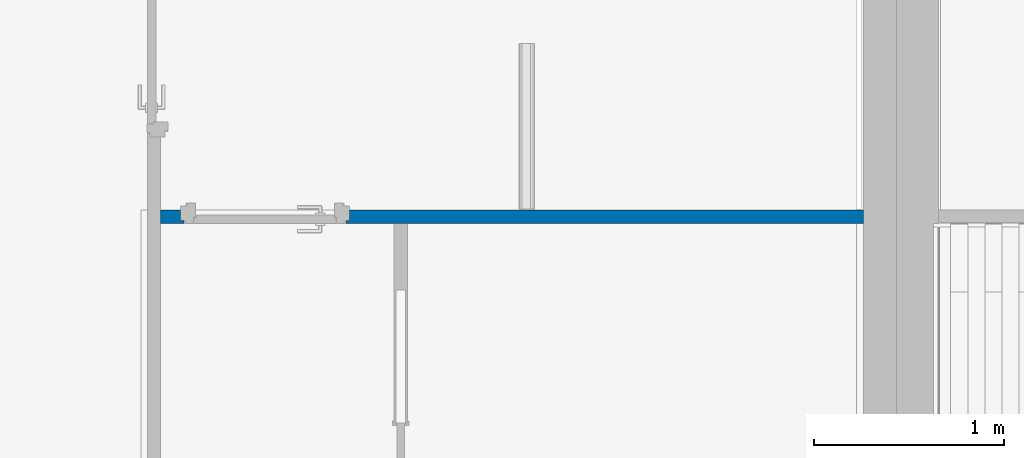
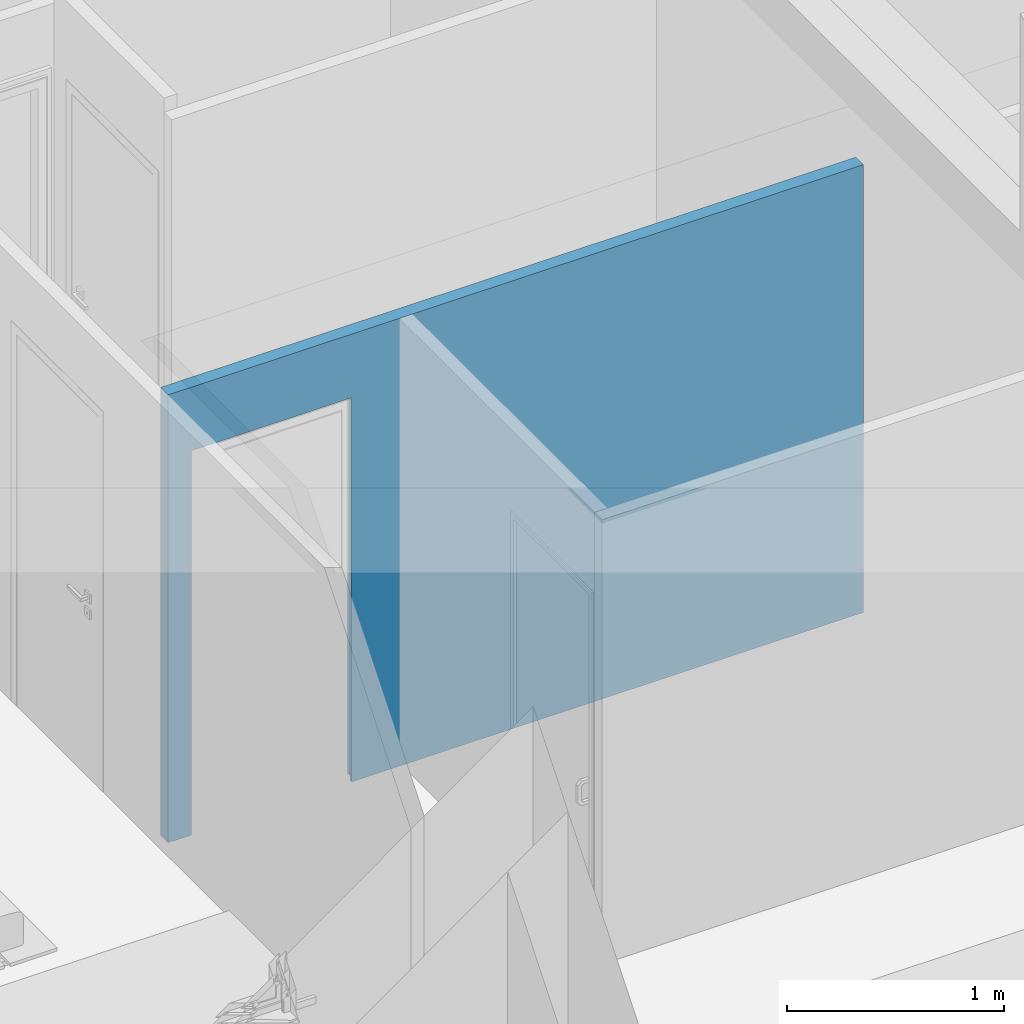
# One storey, part 33 of 61: 1 wall, 1 opening.
"""IFC2X3 building model written with IfcOpenShell, lengths in metres."""

import ifcopenshell
import ifcopenshell.guid

model = None  # the IFC model being written
_history = None  # IfcOwnerHistory: only IFC2X3 demands one
_inside = {}  # id of a spatial element -> (the spatial element, [elements in it])
_under = {}  # id of a project, library or spatial element -> (it, [spatial elements below it])
_declared = {}  # id of a project -> (the project, [libraries it declares])
_typed = {}  # id of a type object -> (the type object, [elements of that type])
_made_of = {}  # id of a material, layer set ... -> (it, [elements and type objects made of it])


def new_model(schema):
    """Start an empty IFC model of exactly this schema.

    Asked for "IFC4X3", IfcOpenShell would pick the latest addendum, in which some entities
    have other attributes; the version numbers below select the first issue.
    IFC2X3 requires an IfcOwnerHistory on every rooted entity: one is made here for all.
    """
    global model, _history
    if schema == "IFC4X3":
        model = ifcopenshell.file(schema_version=(4, 3, 0, 0))
    else:
        model = ifcopenshell.file(schema=schema)
    _inside.clear()
    _under.clear()
    _declared.clear()
    _typed.clear()
    _made_of.clear()
    _history = None
    if model.schema == "IFC2X3":
        org = make("IfcOrganization", Name="unknown")
        user = make(
            "IfcPersonAndOrganization",
            ThePerson=make("IfcPerson", FamilyName="unknown"),
            TheOrganization=org,
        )
        app = make(
            "IfcApplication",
            ApplicationDeveloper=org,
            Version="unknown",
            ApplicationFullName="unknown",
            ApplicationIdentifier="unknown",
        )
        _history = make(
            "IfcOwnerHistory",
            OwningUser=user,
            OwningApplication=app,
            ChangeAction="ADDED",
            CreationDate=0,
        )
    return model


def make(cls, **values):
    """One entity of the class cls with the attributes given. An attribute that is None is left unset."""
    return model.create_entity(
        cls, **{name: value for name, value in values.items() if value is not None}
    )


def entity(cls, *values):
    """Any entity or typed value of the class cls, its attributes in the order of the schema. None: left unset."""
    e = model.create_entity(cls)
    for i, value in enumerate(values):
        if value is not None:
            e[i] = value
    return e


def rooted(cls, **values):
    """An entity with a GlobalId (a new one), such as an element, a storey or a relation."""
    return make(cls, GlobalId=ifcopenshell.guid.new(), OwnerHistory=_history, **values)


def si_unit(unit_type, name, prefix=None):
    """IfcSIUnit, for example si_unit("LENGTHUNIT", "METRE", prefix="MILLI")."""
    return make("IfcSIUnit", UnitType=unit_type, Prefix=prefix, Name=name)


def converted_unit(unit_type, name, factor, base, dimensions=None, offset=None):
    """IfcConversionBasedUnit, such as the inch: factor (a typed value) times the base unit."""
    return make(
        "IfcConversionBasedUnit"
        if offset is None
        else "IfcConversionBasedUnitWithOffset",
        ConversionOffset=offset,
        Dimensions=None
        if dimensions is None
        else entity("IfcDimensionalExponents", *dimensions),
        UnitType=unit_type,
        Name=name,
        ConversionFactor=make(
            "IfcMeasureWithUnit", ValueComponent=factor, UnitComponent=base
        ),
    )


def derived_unit(unit_type, elements):
    """IfcDerivedUnit: a product of units, each with its exponent."""
    return make(
        "IfcDerivedUnit",
        Elements=[
            make("IfcDerivedUnitElement", Unit=unit, Exponent=power)
            for unit, power in elements
        ],
        UnitType=unit_type,
    )


def assignment(units):
    """IfcUnitAssignment: the units of a project."""
    return None if units is None else make("IfcUnitAssignment", Units=units)


def point(xyz):
    """IfcCartesianPoint."""
    return None if xyz is None else make("IfcCartesianPoint", Coordinates=xyz)


def direction(xyz):
    """IfcDirection."""
    return None if xyz is None else make("IfcDirection", DirectionRatios=xyz)


def frame(location, z_axis=None, x_axis=None):
    """IfcAxis2Placement3D, a coordinate frame: its origin and axes. An axis left out is left unset."""
    return make(
        "IfcAxis2Placement3D",
        Location=point(location),
        Axis=direction(z_axis),
        RefDirection=direction(x_axis),
    )


def frame_2d(location, x_axis=None):
    """IfcAxis2Placement2D, a coordinate frame in the plane: its origin and x axis."""
    return make(
        "IfcAxis2Placement2D", Location=point(location), RefDirection=direction(x_axis)
    )


def origin():
    """The frame at (0, 0, 0) with its axes left unset."""
    return frame((0.0, 0.0, 0.0))


def place(relative_to, where):
    """IfcLocalPlacement: puts the frame where relative to a parent placement (None: the world)."""
    return make(
        "IfcLocalPlacement", PlacementRelTo=relative_to, RelativePlacement=where
    )


def context(
    kind, dimensions, precision=None, world=None, true_north=None, identifier=None
):
    """IfcGeometricRepresentationContext, for example the 3D "Model" context."""
    return make(
        "IfcGeometricRepresentationContext",
        ContextIdentifier=identifier,
        ContextType=kind,
        CoordinateSpaceDimension=dimensions,
        Precision=precision,
        WorldCoordinateSystem=world,
        TrueNorth=true_north,
    )


def subcontext(parent, identifier, kind, view, scale=None):
    """IfcGeometricRepresentationSubContext, for example "Body" below "Model"."""
    return make(
        "IfcGeometricRepresentationSubContext",
        ContextIdentifier=identifier,
        ContextType=kind,
        ParentContext=parent,
        TargetScale=scale,
        TargetView=view,
    )


def project(units=None, contexts=None):
    """IfcProject with its units and contexts."""
    return rooted(
        "IfcProject",
        Name="project",
        RepresentationContexts=contexts,
        UnitsInContext=assignment(units),
    )


def spatial(cls, under=None, at=None, **own):
    """A site, building, storey or space (cls), placed at a placement, below another one or the project."""
    s = rooted(cls, ObjectPlacement=at, **own)
    if under is not None:
        _under.setdefault(under.id(), (under, []))[1].append(s)
    return s


def profile(cls, at=None, kind="AREA", **sizes):
    """A parametric profile (cls). Its sizes go by their IFC names, for example OverallWidth=200.0."""
    return make(cls, ProfileType=kind, Position=at, **sizes)


def rectangle(**sizes):
    """IfcRectangleProfileDef."""
    return profile("IfcRectangleProfileDef", **sizes)


def extrude(swept, where, along, depth):
    """IfcExtrudedAreaSolid: the profile swept, set in the frame where, extruded along a direction by depth."""
    return make(
        "IfcExtrudedAreaSolid",
        SweptArea=swept,
        Position=where,
        ExtrudedDirection=direction(along),
        Depth=depth,
    )


def faces_of(points, faces, orient=None, outer=None):
    """IfcFace entities. A face is a list of loops; a loop is a list of indices into points, from 0.

    orient and outer hold one flag for each loop. By default every Orientation is true, the
    first loop of a face is its IfcFaceOuterBound and the others are IfcFaceBound.
    """
    made = []
    for i, loops in enumerate(faces):
        bounds = []
        for j, loop in enumerate(loops):
            is_outer = j == 0 if outer is None else outer[i][j]
            bounds.append(
                make(
                    "IfcFaceOuterBound" if is_outer else "IfcFaceBound",
                    Bound=make("IfcPolyLoop", Polygon=[points[k] for k in loop]),
                    Orientation=True if orient is None else orient[i][j],
                )
            )
        made.append(make("IfcFace", Bounds=bounds))
    return made


def faceted_brep(points, faces, orient=None, outer=None, voids=None):
    """IfcFacetedBrep: a solid bounded by flat faces; with voids (closed shells), ...WithVoids."""
    shared = [point(p) for p in points]
    hull = make("IfcClosedShell", CfsFaces=faces_of(shared, faces, orient, outer))
    if voids is None:
        return make("IfcFacetedBrep", Outer=hull)
    return make(
        "IfcFacetedBrepWithVoids",
        Outer=hull,
        Voids=[
            make(cls, CfsFaces=faces_of(shared, fs, o, b)) for cls, fs, o, b in voids
        ],
    )


def shape(context_of_items, identifier, shape_type, items):
    """IfcShapeRepresentation: the items that make up one representation, for example the "Body"."""
    return make(
        "IfcShapeRepresentation",
        ContextOfItems=context_of_items,
        RepresentationIdentifier=identifier,
        RepresentationType=shape_type,
        Items=items,
    )


def material(Name=None, Category=None):
    """IfcMaterial."""
    return make("IfcMaterial", Name=Name, Category=Category)


def layer(
    of_material, thickness, ventilated=None, Name=None, Category=None, Priority=None
):
    """IfcMaterialLayer: one layer of a wall or slab, of a material (None: an air gap)."""
    return make(
        "IfcMaterialLayer",
        Material=of_material,
        LayerThickness=thickness,
        IsVentilated=ventilated,
        Name=Name,
        Category=Category,
        Priority=Priority,
    )


def layer_set(layers, Name=None):
    """IfcMaterialLayerSet."""
    return make("IfcMaterialLayerSet", MaterialLayers=layers, LayerSetName=Name)


def layer_usage(for_layer_set, set_direction, sense, offset, extent=None):
    """IfcMaterialLayerSetUsage: how a layer set lies in its element."""
    return make(
        "IfcMaterialLayerSetUsage",
        ForLayerSet=for_layer_set,
        LayerSetDirection=set_direction,
        DirectionSense=sense,
        OffsetFromReferenceLine=offset,
        ReferenceExtent=extent,
    )


def made_of(thing, what):
    """Note that an element or type object is made of a material, layer set ...; save() writes the relation."""
    if what is not None:
        _made_of.setdefault(what.id(), (what, []))[1].append(thing)
    return thing


def type_object(cls, material=None, **own):
    """A type object (cls), such as IfcWallType, which elements share."""
    return made_of(rooted(cls, **own), material)


def element(
    cls,
    number,
    at=None,
    inside=None,
    cuts=None,
    type_object=None,
    material=None,
    context=None,
    identifier="Body",
    shape_type=None,
    held_by="IfcProductDefinitionShape",
    body=None,
    shapes=None,
    **own,
):
    """One element of the class cls, such as IfcWall. Its Tag is "e" and its number.

    at: its placement. inside: the storey or other place that contains it. cuts: it is an
    opening in that element (IfcRelVoidsElement). A single representation is given by context,
    identifier, shape_type and body (its items); several are given by shapes. held_by: the class
    of the entity that holds the representations. save() writes the other relations.
    """
    e = rooted(cls, Tag="e%d" % number, ObjectPlacement=at, **own)
    if body is not None:
        shapes = [shape(context, identifier, shape_type, body)]
    if shapes is not None:
        e.Representation = make(held_by, Representations=shapes)
    if inside is not None:
        _inside.setdefault(inside.id(), (inside, []))[1].append(e)
    if cuts is not None:
        rooted(
            "IfcRelVoidsElement", RelatingBuildingElement=cuts, RelatedOpeningElement=e
        )
    if type_object is not None:
        _typed.setdefault(type_object.id(), (type_object, []))[1].append(e)
    return made_of(e, material)


def aggregate(whole, parts):
    """IfcRelAggregates: a whole, such as a stair, and the parts it consists of."""
    return rooted("IfcRelAggregates", RelatingObject=whole, RelatedObjects=parts)


def save(model, path):
    """Write the relations noted so far, then the file.

    IfcRelAggregates (storeys below a building ...), IfcRelContainedInSpatialStructure (elements
    in a storey), IfcRelDefinesByType, IfcRelAssociatesMaterial and IfcRelDeclares: one each for
    every whole, place, type object, material and project.
    """
    for whole, parts in _under.values():
        aggregate(whole, parts)
    for where, things in _inside.values():
        rooted(
            "IfcRelContainedInSpatialStructure",
            RelatedElements=things,
            RelatingStructure=where,
        )
    for kind, things in _typed.values():
        rooted("IfcRelDefinesByType", RelatedObjects=things, RelatingType=kind)
    for what, things in _made_of.values():
        rooted("IfcRelAssociatesMaterial", RelatedObjects=things, RelatingMaterial=what)
    for by, libraries in _declared.values():
        rooted("IfcRelDeclares", RelatingContext=by, RelatedDefinitions=libraries)
    model.write(path)


model = new_model("IFC2X3")

# Units and contexts
model_context = context("Model", 3, precision=1e-05, world=origin(), true_north=direction((6.12303176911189e-17, 1.0)))
body_context = subcontext(model_context, "Body", "Model", "MODEL_VIEW")
ifc_project = project(units=[si_unit("LENGTHUNIT", "METRE"), si_unit("AREAUNIT", "SQUARE_METRE"), si_unit("VOLUMEUNIT", "CUBIC_METRE"), converted_unit("PLANEANGLEUNIT", "DEGREE", entity("IfcRatioMeasure", 0.0174532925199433), si_unit("PLANEANGLEUNIT", "RADIAN"), dimensions=[0, 0, 0, 0, 0, 0, 0]), si_unit("MASSUNIT", "GRAM", prefix="KILO"), derived_unit("MASSDENSITYUNIT", [(si_unit("MASSUNIT", "GRAM", prefix="KILO"), 1), (si_unit("LENGTHUNIT", "METRE"), -3)]), si_unit("TIMEUNIT", "SECOND"), si_unit("FREQUENCYUNIT", "HERTZ"), si_unit("THERMODYNAMICTEMPERATUREUNIT", "DEGREE_CELSIUS"), derived_unit("THERMALTRANSMITTANCEUNIT", [(si_unit("MASSUNIT", "GRAM", prefix="KILO"), 1), (si_unit("THERMODYNAMICTEMPERATUREUNIT", "KELVIN"), -1), (si_unit("TIMEUNIT", "SECOND"), -3)]), derived_unit("VOLUMETRICFLOWRATEUNIT", [(si_unit("LENGTHUNIT", "METRE"), 3), (si_unit("TIMEUNIT", "SECOND"), -1)]), si_unit("ELECTRICCURRENTUNIT", "AMPERE"), si_unit("ELECTRICVOLTAGEUNIT", "VOLT"), si_unit("POWERUNIT", "WATT"), si_unit("FORCEUNIT", "NEWTON", prefix="KILO"), si_unit("ILLUMINANCEUNIT", "LUX"), si_unit("LUMINOUSFLUXUNIT", "LUMEN"), si_unit("LUMINOUSINTENSITYUNIT", "CANDELA"), derived_unit("USERDEFINED", [(si_unit("MASSUNIT", "GRAM", prefix="KILO"), -1), (si_unit("LENGTHUNIT", "METRE"), -2), (si_unit("TIMEUNIT", "SECOND"), 3), (si_unit("LUMINOUSFLUXUNIT", "LUMEN"), 1)]), derived_unit("LINEARVELOCITYUNIT", [(si_unit("LENGTHUNIT", "METRE"), 1), (si_unit("TIMEUNIT", "SECOND"), -1)]), si_unit("PRESSUREUNIT", "PASCAL"), derived_unit("USERDEFINED", [(si_unit("LENGTHUNIT", "METRE"), -2), (si_unit("MASSUNIT", "GRAM", prefix="KILO"), 1), (si_unit("TIMEUNIT", "SECOND"), -2)])], contexts=[model_context])

# Site, building, storey
site_placement = place(None, origin())
site = spatial("IfcSite", under=ifc_project, at=site_placement, Name="Surface", CompositionType="ELEMENT")
building_placement = place(site_placement, origin())
building = spatial("IfcBuilding", under=site, at=building_placement, CompositionType="ELEMENT")
storey_placement = place(building_placement, frame((0.0, 0.0, 2.82)))
storey = spatial("IfcBuildingStorey", under=building, at=storey_placement, Name="ETAGE", CompositionType="ELEMENT", Elevation=2.82)

# Wall, opening
ifc_material = material(Name="Peinture - Blanc")
ifc_layer = layer(ifc_material, 0.07)
ifc_layer_set = layer_set([ifc_layer], Name="Mur de base:Int.  Platre 70 mm en blanc")
ifc_layer_usage = layer_usage(ifc_layer_set, "AXIS2", "POSITIVE", -0.035)
wall_type = type_object("IfcWallType", Name="Mur de base:Int.  Platre 70 mm en blanc", PredefinedType="STANDARD", material=ifc_layer_set)
wall_placement = place(storey_placement, frame((79.8310189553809, 86.6425239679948, 0.0)))
wall = element("IfcWallStandardCase", 1, at=wall_placement, inside=storey, type_object=wall_type, material=ifc_layer_usage, Name="Mur de base:Int.  Platre 70 mm en blanc", ObjectType="Mur de base:Int.  Platre 70 mm en blanc", context=body_context, shape_type="SweptSolid", body=[
    extrude(rectangle(XDim=3.70038340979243, YDim=0.0699999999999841, at=frame_2d((1.85019170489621, 0.0), x_axis=(-1.0, 0.0))), origin(), (0.0, 0.0, 1.0), 2.52),
])
opening_placement = place(wall_placement, frame((0.10499999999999, -0.214999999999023, 0.0)))
element("IfcOpeningElement", 2, at=opening_placement, cuts=wall, Name="Mur de base:Int.  Platre 70 mm en blanc", ObjectType="Opening", context=body_context, shape_type="Brep", body=[
    faceted_brep([(0.0799999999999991, 0.0, 2.09999999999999), (0.0799999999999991, 0.0, 0.0), (0.810000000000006, 0.0, 0.0), (0.810000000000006, 0.0, 2.09999999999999), (0.0799999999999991, 0.893399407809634, 2.09999999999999), (0.810000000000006, 0.893399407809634, 2.09999999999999), (0.810000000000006, 0.893399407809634, 0.0), (0.0799999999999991, 0.893399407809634, 0.0), (0.0799999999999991, 0.179999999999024, 2.09999999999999), (0.0799999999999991, 0.179999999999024, 0.0), (0.0180000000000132, 0.179999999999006, 0.0), (0.0180000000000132, 0.19499999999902, 0.0), (0.0, 0.19499999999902, 0.0), (0.0, 0.272999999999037, 0.0), (0.0290000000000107, 0.272999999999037, 0.0), (0.0290000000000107, 0.249999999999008, 0.0), (0.0799999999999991, 0.249999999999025, 0.0), (0.810000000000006, 0.249999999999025, 0.0), (0.860999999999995, 0.249999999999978, 0.0), (0.860999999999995, 0.27299999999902, 0.0), (0.890000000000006, 0.27299999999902, 0.0), (0.890000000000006, 0.19499999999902, 0.0), (0.871999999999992, 0.19499999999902, 0.0), (0.871999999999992, 0.179999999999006, 0.0), (0.809999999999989, 0.179999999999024, 0.0), (0.809999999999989, 0.179999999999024, 2.09999999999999), (0.0290000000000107, 0.249999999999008, 2.15099999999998), (0.860999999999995, 0.249999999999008, 2.15099999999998), (0.810000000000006, 0.249999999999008, 2.09999999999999), (0.820999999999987, 0.249999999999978, 2.09999999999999), (0.820999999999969, 0.249999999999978, 2.11099999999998), (0.0690000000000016, 0.249999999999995, 2.11099999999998), (0.069000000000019, 0.249999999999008, 2.09999999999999), (0.0799999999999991, 0.249999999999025, 2.09999999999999), (0.871999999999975, 0.179999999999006, 2.16199999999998), (0.0179999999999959, 0.179999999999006, 2.16199999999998), (0.0690000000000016, 0.250499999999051, 2.09999999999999), (0.0690000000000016, 0.250499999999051, 2.11099999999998), (0.820999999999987, 0.250499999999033, 2.11099999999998), (0.820999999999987, 0.250499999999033, 2.09999999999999), (0.809999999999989, 0.250499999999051, 2.09999999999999), (0.0799999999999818, 0.250499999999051, 2.09999999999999), (0.0179999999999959, 0.19499999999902, 2.16199999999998), (0.871999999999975, 0.19499999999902, 2.16199999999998), (0.889999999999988, 0.19499999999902, 2.17999999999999), (0.0, 0.19499999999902, 2.17999999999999), (0.0, 0.27299999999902, 2.17999999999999), (0.889999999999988, 0.27299999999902, 2.17999999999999), (0.860999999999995, 0.27299999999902, 2.15099999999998), (0.0290000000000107, 0.27299999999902, 2.15099999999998)], [[[0, 1, 2, 3]], [[4, 5, 6, 7]], [[0, 8, 9, 1]], [[1, 9, 10, 11, 12, 13, 14, 15, 16, 7, 6, 17, 18, 19, 20, 21, 22, 23, 24, 2]], [[2, 24, 25, 3]], [[3, 25, 8, 0]], [[15, 26, 27, 18, 17, 28, 29, 30, 31, 32, 33, 16]], [[9, 8, 25, 24, 23, 34, 35, 10]], [[36, 32, 31, 37]], [[38, 30, 29, 39]], [[37, 31, 30, 38]], [[39, 40, 41, 36, 37, 38]], [[41, 33, 32, 36]], [[10, 35, 42, 11]], [[11, 42, 43, 22, 21, 44, 45, 12]], [[12, 45, 46, 13]], [[13, 46, 47, 20, 19, 48, 49, 14]], [[14, 49, 26, 15]], [[34, 43, 42, 35]], [[44, 47, 46, 45]], [[26, 49, 48, 27]], [[23, 22, 43, 34]], [[21, 20, 47, 44]], [[27, 48, 19, 18]], [[39, 29, 28, 40]], [[4, 41, 40, 5]], [[5, 40, 28, 17, 6]], [[7, 16, 33, 41, 4]]]),
])

save(model, "model.ifc")
